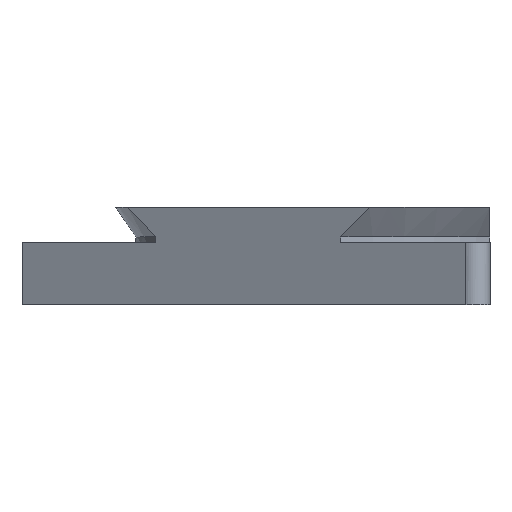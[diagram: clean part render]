
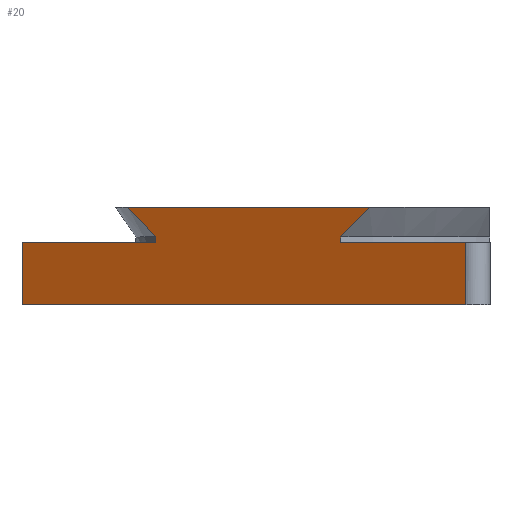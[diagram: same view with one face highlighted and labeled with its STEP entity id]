
A CAD part, front view. The second image highlights one B-rep face of the part: STEP entity #20.
In plain terms, the highlighted planar face has unit normal (-0.5, -0.866, 0).
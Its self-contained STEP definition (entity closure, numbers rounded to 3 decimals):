
#20=ADVANCED_FACE('',(#73),#866,.T.);
#73=FACE_OUTER_BOUND('',#126,.T.);
#126=EDGE_LOOP('',(#188,#189,#190,#191,#192,#193,#194,#195,#196,#197));
#188=ORIENTED_EDGE('',*,*,#467,.F.);
#189=ORIENTED_EDGE('',*,*,#468,.T.);
#190=ORIENTED_EDGE('',*,*,#469,.T.);
#191=ORIENTED_EDGE('',*,*,#470,.T.);
#192=ORIENTED_EDGE('',*,*,#471,.T.);
#193=ORIENTED_EDGE('',*,*,#472,.T.);
#194=ORIENTED_EDGE('',*,*,#473,.T.);
#195=ORIENTED_EDGE('',*,*,#474,.T.);
#196=ORIENTED_EDGE('',*,*,#475,.T.);
#197=ORIENTED_EDGE('',*,*,#476,.T.);
#467=EDGE_CURVE('',#751,#748,#670,.T.);
#468=EDGE_CURVE('',#751,#754,#671,.T.);
#469=EDGE_CURVE('',#754,#755,#672,.T.);
#470=EDGE_CURVE('',#755,#756,#673,.T.);
#471=EDGE_CURVE('',#756,#757,#674,.T.);
#472=EDGE_CURVE('',#757,#758,#606,.T.);
#473=EDGE_CURVE('',#758,#759,#675,.T.);
#474=EDGE_CURVE('',#759,#760,#607,.T.);
#475=EDGE_CURVE('',#760,#752,#676,.T.);
#476=EDGE_CURVE('',#752,#748,#677,.T.);
#606=(
BOUNDED_CURVE()
B_SPLINE_CURVE(2,(#1456,#1457,#1458),.UNSPECIFIED.,.F.,.F.)
B_SPLINE_CURVE_WITH_KNOTS((3,3),(0.,0.552),.UNSPECIFIED.)
CURVE()
GEOMETRIC_REPRESENTATION_ITEM()
RATIONAL_B_SPLINE_CURVE((1.,1.003,1.))
REPRESENTATION_ITEM('')
);
#607=(
BOUNDED_CURVE()
B_SPLINE_CURVE(2,(#1461,#1462,#1463),.UNSPECIFIED.,.F.,.F.)
B_SPLINE_CURVE_WITH_KNOTS((3,3),(0.,0.552),.UNSPECIFIED.)
CURVE()
GEOMETRIC_REPRESENTATION_ITEM()
RATIONAL_B_SPLINE_CURVE((1.,1.003,1.))
REPRESENTATION_ITEM('')
);
#670=B_SPLINE_CURVE_WITH_KNOTS('',1,(#1446,#1447),.UNSPECIFIED.,.F.,.F.,
(2,2),(0.,0.771),.UNSPECIFIED.);
#671=B_SPLINE_CURVE_WITH_KNOTS('',1,(#1448,#1449),.UNSPECIFIED.,.F.,.F.,
(2,2),(0.,6.362),.UNSPECIFIED.);
#672=B_SPLINE_CURVE_WITH_KNOTS('',1,(#1450,#1451),.UNSPECIFIED.,.F.,.F.,
(2,2),(-0.771,0.),.UNSPECIFIED.);
#673=B_SPLINE_CURVE_WITH_KNOTS('',1,(#1452,#1453),.UNSPECIFIED.,.F.,.F.,
(2,2),(0.,1.792),.UNSPECIFIED.);
#674=B_SPLINE_CURVE_WITH_KNOTS('',1,(#1454,#1455),.UNSPECIFIED.,.F.,.F.,
(2,2),(0.,0.072),.UNSPECIFIED.);
#675=B_SPLINE_CURVE_WITH_KNOTS('',1,(#1459,#1460),.UNSPECIFIED.,.F.,.F.,
(2,2),(0.,3.469),.UNSPECIFIED.);
#676=B_SPLINE_CURVE_WITH_KNOTS('',1,(#1464,#1465),.UNSPECIFIED.,.F.,.F.,
(2,2),(0.,0.072),.UNSPECIFIED.);
#677=B_SPLINE_CURVE_WITH_KNOTS('',1,(#1466,#1467),.UNSPECIFIED.,.F.,.F.,
(2,2),(0.,1.919),.UNSPECIFIED.);
#748=VERTEX_POINT('',#1346);
#751=VERTEX_POINT('',#1349);
#752=VERTEX_POINT('',#1350);
#754=VERTEX_POINT('',#1352);
#755=VERTEX_POINT('',#1353);
#756=VERTEX_POINT('',#1354);
#757=VERTEX_POINT('',#1355);
#758=VERTEX_POINT('',#1356);
#759=VERTEX_POINT('',#1357);
#760=VERTEX_POINT('',#1358);
#866=PLANE('',#917);
#917=AXIS2_PLACEMENT_3D('',#985,#951,$);
#951=DIRECTION('',(-0.5,-0.866,0.));
#985=CARTESIAN_POINT('',(22.524,-36.098,3.358));
#1346=CARTESIAN_POINT('',(-38.095,-1.1,-2.293));
#1349=CARTESIAN_POINT('',(-38.095,-1.1,-10.));
#1350=CARTESIAN_POINT('',(-21.478,-10.694,-2.293));
#1352=CARTESIAN_POINT('',(17.,-32.909,-10.));
#1353=CARTESIAN_POINT('',(17.,-32.909,-2.293));
#1354=CARTESIAN_POINT('',(1.478,-23.947,-2.293));
#1355=CARTESIAN_POINT('',(1.478,-23.947,-1.57));
#1356=CARTESIAN_POINT('',(5.021,-25.993,2.133));
#1357=CARTESIAN_POINT('',(-25.021,-8.648,2.133));
#1358=CARTESIAN_POINT('',(-21.478,-10.694,-1.57));
#1446=CARTESIAN_POINT('',(-38.095,-1.1,-10.));
#1447=CARTESIAN_POINT('',(-38.095,-1.1,-2.293));
#1448=CARTESIAN_POINT('',(-38.095,-1.1,-10.));
#1449=CARTESIAN_POINT('',(17.,-32.909,-10.));
#1450=CARTESIAN_POINT('',(17.,-32.909,-10.));
#1451=CARTESIAN_POINT('',(17.,-32.909,-2.293));
#1452=CARTESIAN_POINT('',(17.,-32.909,-2.293));
#1453=CARTESIAN_POINT('',(1.478,-23.947,-2.293));
#1454=CARTESIAN_POINT('',(1.478,-23.947,-2.293));
#1455=CARTESIAN_POINT('',(1.478,-23.947,-1.57));
#1456=CARTESIAN_POINT('',(1.478,-23.947,-1.57));
#1457=CARTESIAN_POINT('',(3.162,-24.92,0.034));
#1458=CARTESIAN_POINT('',(5.021,-25.993,2.133));
#1459=CARTESIAN_POINT('',(5.021,-25.993,2.133));
#1460=CARTESIAN_POINT('',(-25.021,-8.648,2.133));
#1461=CARTESIAN_POINT('',(-25.021,-8.648,2.133));
#1462=CARTESIAN_POINT('',(-23.162,-9.721,0.034));
#1463=CARTESIAN_POINT('',(-21.478,-10.694,-1.57));
#1464=CARTESIAN_POINT('',(-21.478,-10.694,-1.57));
#1465=CARTESIAN_POINT('',(-21.478,-10.694,-2.293));
#1466=CARTESIAN_POINT('',(-21.478,-10.694,-2.293));
#1467=CARTESIAN_POINT('',(-38.095,-1.1,-2.293));
